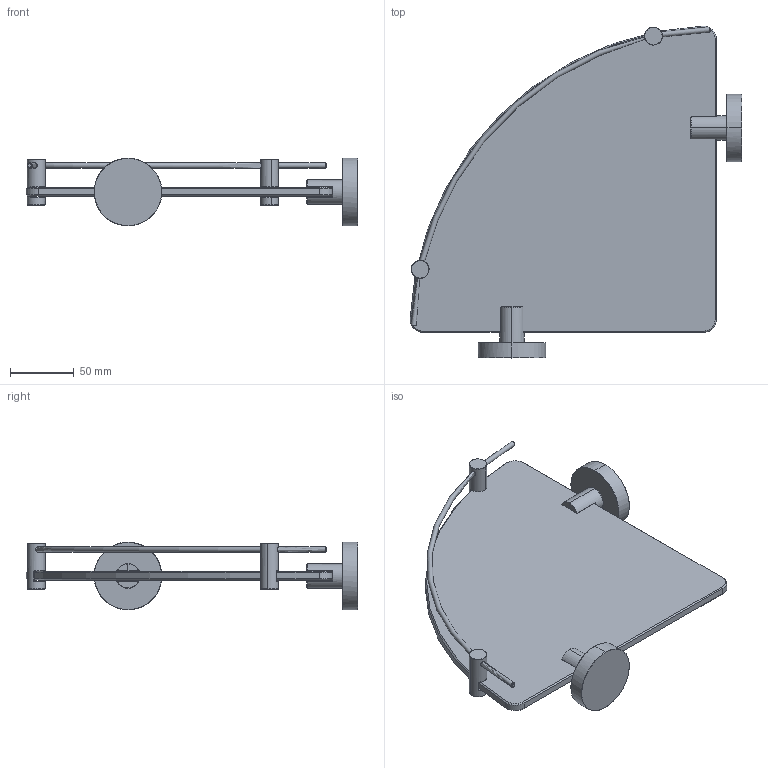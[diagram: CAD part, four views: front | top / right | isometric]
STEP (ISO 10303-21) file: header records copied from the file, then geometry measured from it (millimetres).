
FILE_DESCRIPTION(('THIS FILE CONTAINS SOME STEP INSTANCES'),'1');
FILE_NAME('HAR 039-light.stp','2015-11-18T 7:38:38',('UNDEFINED'),('UNDEFINED'),'T-FLEX CAD STEP converter','T-FLEX CAD','');
FILE_SCHEMA(('CONFIG_CONTROL_DESIGN'));
Length unit declared in the file: metre
Products named in the file (4): 3D 鐨飹懤艜_8; 8100.100.31
Bounding box: 259.77 x 259.77 x 53 mm (x, y, z)
Volume: 392030.5 mm3; surface area: 120161.1 mm2
Topology: 4 solids, 4 shells, 167 faces, 354 edges, 201 vertices
Faces by surface type: plane 70, cone 42, bspline 36, cylinder 16, torus 3
Entity records: 8283 total; most frequent: CARTESIAN_POINT 5086, ORIENTED_EDGE 696, DIRECTION 534, EDGE_CURVE 348, VERTEX_POINT 198, LINE 188, VECTOR 188, EDGE_LOOP 176
